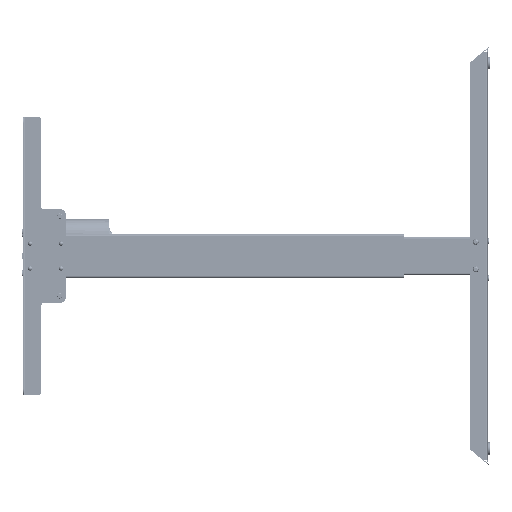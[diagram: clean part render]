
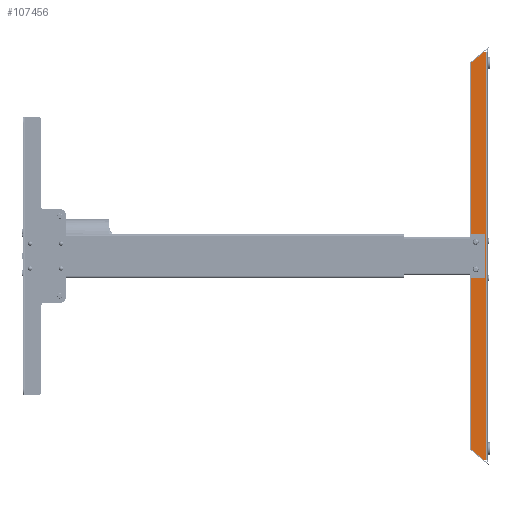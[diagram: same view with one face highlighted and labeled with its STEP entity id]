
A CAD part, left-side view. The second image highlights one B-rep face of the part: STEP entity #107456.
In plain terms, the highlighted planar face has unit normal (-1, 0, 0).
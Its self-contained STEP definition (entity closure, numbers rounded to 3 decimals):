
#64 = DIRECTION ( 'NONE',  ( 0., 0., 1. ) ) ;
#4786 = EDGE_CURVE ( 'NONE', #155447, #63128, #10145, .T. ) ;
#5266 = ORIENTED_EDGE ( 'NONE', *, *, #28429, .F. ) ;
#7053 = ORIENTED_EDGE ( 'NONE', *, *, #165521, .T. ) ;
#9652 = DIRECTION ( 'NONE',  ( 0., 0., 1. ) ) ;
#10145 = CIRCLE ( 'NONE', #105868, 2. ) ;
#10863 = AXIS2_PLACEMENT_3D ( 'NONE', #157911, #130466, #25102 ) ;
#11233 = DIRECTION ( 'NONE',  ( -1., 0., 0. ) ) ;
#11291 = DIRECTION ( 'NONE',  ( 1., 0., 0. ) ) ;
#12268 = CARTESIAN_POINT ( 'NONE',  ( -21.5, 26., 333.5 ) ) ;
#12577 = VERTEX_POINT ( 'NONE', #80776 ) ;
#14875 = VERTEX_POINT ( 'NONE', #75247 ) ;
#15287 = DIRECTION ( 'NONE',  ( 0., 0., -1. ) ) ;
#15971 = VECTOR ( 'NONE', #15287, 1000. ) ;
#17790 = LINE ( 'NONE', #29809, #15971 ) ;
#21695 = FACE_OUTER_BOUND ( 'NONE', #142679, .T. ) ;
#24235 = DIRECTION ( 'NONE',  ( -1., 0., 0. ) ) ;
#24859 = CARTESIAN_POINT ( 'NONE',  ( -21.5, 26., -310.284 ) ) ;
#25102 = DIRECTION ( 'NONE',  ( 0., 0., -1. ) ) ;
#27417 = DIRECTION ( 'NONE',  ( 0., 0.766, 0.643 ) ) ;
#28339 = ORIENTED_EDGE ( 'NONE', *, *, #32352, .T. ) ;
#28429 = EDGE_CURVE ( 'NONE', #12577, #14875, #100936, .T. ) ;
#29258 = AXIS2_PLACEMENT_3D ( 'NONE', #100515, #74811, #152844 ) ;
#29583 = CARTESIAN_POINT ( 'NONE',  ( -21.5, 26., 310.284 ) ) ;
#29809 = CARTESIAN_POINT ( 'NONE',  ( -21.5, 1., 333.5 ) ) ;
#31663 = VERTEX_POINT ( 'NONE', #29583 ) ;
#32352 = EDGE_CURVE ( 'NONE', #112768, #112768, #100649, .T. ) ;
#32360 = VERTEX_POINT ( 'NONE', #130345 ) ;
#37291 = ORIENTED_EDGE ( 'NONE', *, *, #43891, .T. ) ;
#40229 = LINE ( 'NONE', #133625, #49858 ) ;
#40432 = VECTOR ( 'NONE', #159985, 1000. ) ;
#42490 = AXIS2_PLACEMENT_3D ( 'NONE', #98724, #61007, #9652 ) ;
#43891 = EDGE_CURVE ( 'NONE', #113818, #31663, #70958, .T. ) ;
#44229 = EDGE_CURVE ( 'NONE', #126516, #126516, #111949, .T. ) ;
#44539 = CARTESIAN_POINT ( 'NONE',  ( -21.5, 24.928, -312.583 ) ) ;
#44667 = CARTESIAN_POINT ( 'NONE',  ( -21.5, 5.325, 329.032 ) ) ;
#45647 = CARTESIAN_POINT ( 'NONE',  ( -21.5, 0., 333.5 ) ) ;
#46778 = CARTESIAN_POINT ( 'NONE',  ( -21.5, 18., 20. ) ) ;
#47346 = CARTESIAN_POINT ( 'NONE',  ( -21.5, 0., 333.5 ) ) ;
#48408 = CIRCLE ( 'NONE', #29258, 2. ) ;
#48583 = ORIENTED_EDGE ( 'NONE', *, *, #49802, .F. ) ;
#49802 = EDGE_CURVE ( 'NONE', #32360, #12577, #17790, .T. ) ;
#49858 = VECTOR ( 'NONE', #27417, 1000. ) ;
#50726 = DIRECTION ( 'NONE',  ( 0., 0., 1. ) ) ;
#57231 = AXIS2_PLACEMENT_3D ( 'NONE', #107438, #120338, #159789 ) ;
#60373 = AXIS2_PLACEMENT_3D ( 'NONE', #47346, #24235, #50726 ) ;
#61007 = DIRECTION ( 'NONE',  ( -1., 0., 0. ) ) ;
#63128 = VERTEX_POINT ( 'NONE', #44667 ) ;
#63790 = EDGE_CURVE ( 'NONE', #63128, #113818, #164825, .T. ) ;
#64498 = DIRECTION ( 'NONE',  ( 0., 0., -1. ) ) ;
#64730 = CARTESIAN_POINT ( 'NONE',  ( -21.5, 18., -24. ) ) ;
#69610 = EDGE_LOOP ( 'NONE', ( #91945 ) ) ;
#70958 = CIRCLE ( 'NONE', #57231, 3. ) ;
#72800 = CARTESIAN_POINT ( 'NONE',  ( -21.5, 24.928, 312.583 ) ) ;
#74811 = DIRECTION ( 'NONE',  ( -1., 0., 0. ) ) ;
#75247 = CARTESIAN_POINT ( 'NONE',  ( -21.5, 4.039, -329.5 ) ) ;
#78766 = AXIS2_PLACEMENT_3D ( 'NONE', #128674, #11291, #167272 ) ;
#80776 = CARTESIAN_POINT ( 'NONE',  ( -21.5, 1., -329.5 ) ) ;
#84000 = VECTOR ( 'NONE', #64498, 1000. ) ;
#87213 = DIRECTION ( 'NONE',  ( 0., 1., 0. ) ) ;
#88722 = EDGE_LOOP ( 'NONE', ( #28339 ) ) ;
#89025 = VECTOR ( 'NONE', #87213, 1000. ) ;
#91945 = ORIENTED_EDGE ( 'NONE', *, *, #44229, .T. ) ;
#95499 = ORIENTED_EDGE ( 'NONE', *, *, #4786, .T. ) ;
#98724 = CARTESIAN_POINT ( 'NONE',  ( -21.5, 23., -310.284 ) ) ;
#100515 = CARTESIAN_POINT ( 'NONE',  ( -21.5, 4.039, -327.5 ) ) ;
#100649 = CIRCLE ( 'NONE', #78766, 2.5 ) ;
#100936 = LINE ( 'NONE', #165292, #89025 ) ;
#101743 = ORIENTED_EDGE ( 'NONE', *, *, #63790, .T. ) ;
#102850 = ORIENTED_EDGE ( 'NONE', *, *, #154522, .T. ) ;
#104596 = EDGE_CURVE ( 'NONE', #155447, #32360, #133197, .T. ) ;
#105868 = AXIS2_PLACEMENT_3D ( 'NONE', #117429, #11233, #64 ) ;
#106765 = CARTESIAN_POINT ( 'NONE',  ( -21.5, 4.039, 329.5 ) ) ;
#107438 = CARTESIAN_POINT ( 'NONE',  ( -21.5, 23., 310.284 ) ) ;
#107456 = ADVANCED_FACE ( 'NONE', ( #141608, #126245, #21695 ), #142459, .T. ) ;
#111949 = CIRCLE ( 'NONE', #10863, 2.5 ) ;
#112768 = VERTEX_POINT ( 'NONE', #46778 ) ;
#113818 = VERTEX_POINT ( 'NONE', #72800 ) ;
#116440 = CIRCLE ( 'NONE', #42490, 3. ) ;
#117429 = CARTESIAN_POINT ( 'NONE',  ( -21.5, 4.039, 327.5 ) ) ;
#120338 = DIRECTION ( 'NONE',  ( -1., 0., 0. ) ) ;
#124106 = VERTEX_POINT ( 'NONE', #44539 ) ;
#126245 = FACE_BOUND ( 'NONE', #69610, .T. ) ;
#126516 = VERTEX_POINT ( 'NONE', #64730 ) ;
#128674 = CARTESIAN_POINT ( 'NONE',  ( -21.5, 18., 22.5 ) ) ;
#129645 = LINE ( 'NONE', #12268, #84000 ) ;
#130345 = CARTESIAN_POINT ( 'NONE',  ( -21.5, 1., 329.5 ) ) ;
#130466 = DIRECTION ( 'NONE',  ( 1., 0., 0. ) ) ;
#131469 = ORIENTED_EDGE ( 'NONE', *, *, #165752, .T. ) ;
#133197 = LINE ( 'NONE', #134873, #139033 ) ;
#133625 = CARTESIAN_POINT ( 'NONE',  ( -21.5, 328.433, -57.912 ) ) ;
#134034 = DIRECTION ( 'NONE',  ( 0., -1., 0. ) ) ;
#134873 = CARTESIAN_POINT ( 'NONE',  ( -21.5, 26., 329.5 ) ) ;
#139033 = VECTOR ( 'NONE', #134034, 1000. ) ;
#141608 = FACE_BOUND ( 'NONE', #88722, .T. ) ;
#142182 = CARTESIAN_POINT ( 'NONE',  ( -21.5, 5.325, -329.032 ) ) ;
#142459 = PLANE ( 'NONE',  #60373 ) ;
#142679 = EDGE_LOOP ( 'NONE', ( #163003, #95499, #101743, #37291, #131469, #102850, #168311, #7053, #5266, #48583 ) ) ;
#143833 = VERTEX_POINT ( 'NONE', #24859 ) ;
#149359 = EDGE_CURVE ( 'NONE', #160058, #124106, #40229, .T. ) ;
#152844 = DIRECTION ( 'NONE',  ( 0., 0., 1. ) ) ;
#154522 = EDGE_CURVE ( 'NONE', #143833, #124106, #116440, .T. ) ;
#155447 = VERTEX_POINT ( 'NONE', #106765 ) ;
#157911 = CARTESIAN_POINT ( 'NONE',  ( -21.5, 18., -21.5 ) ) ;
#159789 = DIRECTION ( 'NONE',  ( 0., 0., 1. ) ) ;
#159985 = DIRECTION ( 'NONE',  ( 0., 0.766, -0.643 ) ) ;
#160058 = VERTEX_POINT ( 'NONE', #142182 ) ;
#163003 = ORIENTED_EDGE ( 'NONE', *, *, #104596, .F. ) ;
#164825 = LINE ( 'NONE', #45647, #40432 ) ;
#165292 = CARTESIAN_POINT ( 'NONE',  ( -21.5, 0., -329.5 ) ) ;
#165521 = EDGE_CURVE ( 'NONE', #160058, #14875, #48408, .T. ) ;
#165752 = EDGE_CURVE ( 'NONE', #31663, #143833, #129645, .T. ) ;
#167272 = DIRECTION ( 'NONE',  ( 0., 0., -1. ) ) ;
#168311 = ORIENTED_EDGE ( 'NONE', *, *, #149359, .F. ) ;
